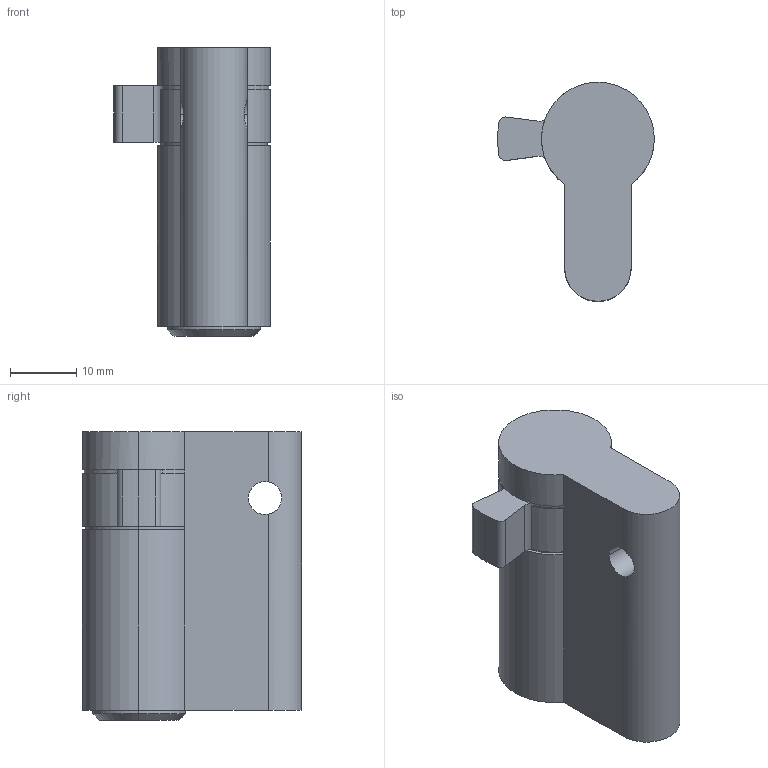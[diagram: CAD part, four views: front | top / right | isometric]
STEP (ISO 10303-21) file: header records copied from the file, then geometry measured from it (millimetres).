
FILE_DESCRIPTION (( 'STEP AP214' ), '1' );
FILE_NAME ('TPL-H-EU-006-R 29Oct2024.STEP', '2024-10-29T22:10:38', ( '' ), ( '' ), 'SwSTEP 2.0', 'SolidWorks 2023', '' );
FILE_SCHEMA (( 'AUTOMOTIVE_DESIGN' ));
Length unit declared in the file: millimetre
Products named in the file (1): TPL-H-EU-006-R 29Oct2024
Bounding box: 23.6 x 33 x 43.5 mm (x, y, z)
Volume: 16028.5 mm3; surface area: 5143.4 mm2
Topology: 1 solids, 1 shells, 46 faces, 127 edges, 80 vertices
Faces by surface type: cylinder 27, plane 16, cone 3
Entity records: 1575 total; most frequent: CARTESIAN_POINT 324, DIRECTION 278, ORIENTED_EDGE 254, EDGE_CURVE 127, AXIS2_PLACEMENT_3D 110, VERTEX_POINT 80, CIRCLE 63, LINE 58
